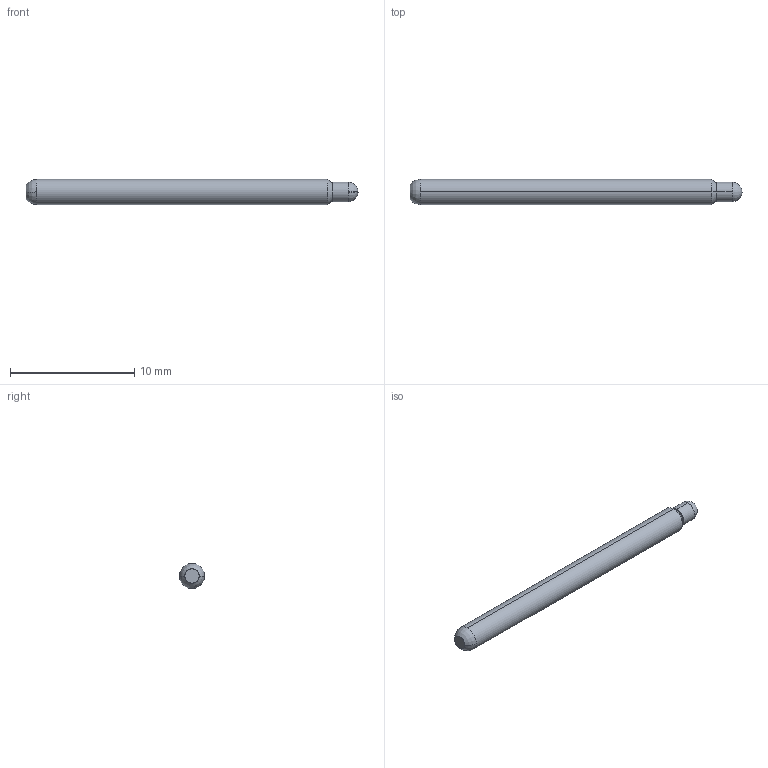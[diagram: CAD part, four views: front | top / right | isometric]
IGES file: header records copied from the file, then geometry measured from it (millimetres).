
Start section: SolidWorks IGES file using analytic representation for surfaces
Global section: file name: C:\Documents and Settings\mrumschlag\Desktop\changes\new\test\EPA-3D Full.IGS; native system: SolidWorks 2008; preprocessor: SolidWorks 2008; author: mrumschlag; date: 110414.162809; units: inch
Bounding box: 26.67 x 2.03 x 2.03 mm (x, y, z)
Surface area: 169.4 mm2 (no closed solid volume)
Topology: 0 solids, 0 shells, 12 faces, 96 edges, 94 vertices
Faces by surface type: revolution 10, bspline 2
